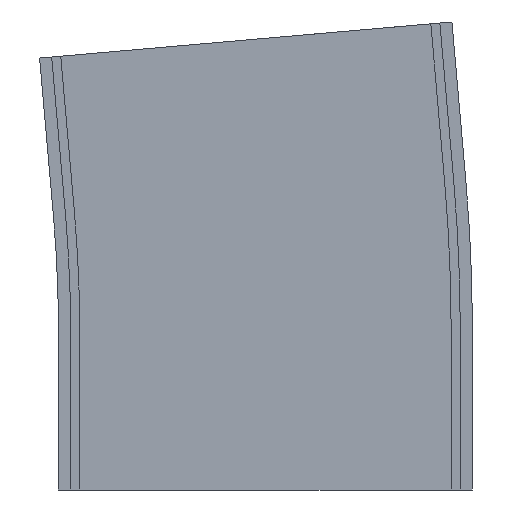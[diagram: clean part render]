
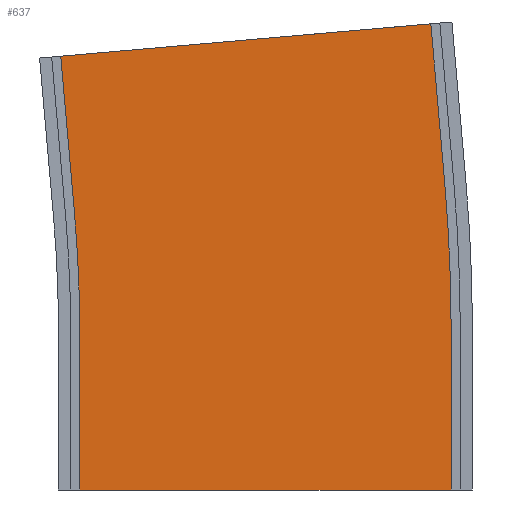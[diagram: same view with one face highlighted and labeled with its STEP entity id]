
A CAD part, left-side view. The second image highlights one B-rep face of the part: STEP entity #637.
In plain terms, the highlighted planar face has unit normal (-1, 0, 0).
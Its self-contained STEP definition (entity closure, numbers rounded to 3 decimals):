
#3 = LINE ( 'NONE', #836, #761 ) ;
#25 = DIRECTION ( 'NONE',  ( 0., 1., 0. ) ) ;
#36 = CARTESIAN_POINT ( 'NONE',  ( -249.5, 61.25, 0. ) ) ;
#38 = LINE ( 'NONE', #372, #1149 ) ;
#53 = CARTESIAN_POINT ( 'NONE',  ( -249.5, 62.92, 90.74 ) ) ;
#83 = LINE ( 'NONE', #973, #323 ) ;
#93 = EDGE_CURVE ( 'NONE', #234, #771, #1076, .T. ) ;
#102 = DIRECTION ( 'NONE',  ( 0., 0.087, 0.996 ) ) ;
#109 = DIRECTION ( 'NONE',  ( -1., 0., 0. ) ) ;
#116 = CARTESIAN_POINT ( 'NONE',  ( -249.5, 67.495, 143.04 ) ) ;
#127 = VERTEX_POINT ( 'NONE', #188 ) ;
#152 = DIRECTION ( 'NONE',  ( 1., 0., 0. ) ) ;
#163 = VERTEX_POINT ( 'NONE', #759 ) ;
#188 = CARTESIAN_POINT ( 'NONE',  ( -249.5, -61.25, 0. ) ) ;
#211 = ORIENTED_EDGE ( 'NONE', *, *, #830, .T. ) ;
#227 = DIRECTION ( 'NONE',  ( -1., 0., 0. ) ) ;
#234 = VERTEX_POINT ( 'NONE', #1409 ) ;
#254 = ORIENTED_EDGE ( 'NONE', *, *, #935, .F. ) ;
#269 = EDGE_CURVE ( 'NONE', #163, #234, #979, .T. ) ;
#288 = DIRECTION ( 'NONE',  ( 0., -1., 0. ) ) ;
#291 = DIRECTION ( 'NONE',  ( 0., 0., -1. ) ) ;
#323 = VECTOR ( 'NONE', #102, 1000. ) ;
#338 = ORIENTED_EDGE ( 'NONE', *, *, #457, .T. ) ;
#372 = CARTESIAN_POINT ( 'NONE',  ( -249.5, -54.539, 153.716 ) ) ;
#389 = CARTESIAN_POINT ( 'NONE',  ( -249.5, -54.539, 153.716 ) ) ;
#407 = VECTOR ( 'NONE', #709, 1000. ) ;
#452 = CARTESIAN_POINT ( 'NONE',  ( -249.5, 500., 52.5 ) ) ;
#457 = EDGE_CURVE ( 'NONE', #847, #702, #1333, .T. ) ;
#518 = CARTESIAN_POINT ( 'NONE',  ( -249.5, 61.25, 52.5 ) ) ;
#525 = ORIENTED_EDGE ( 'NONE', *, *, #974, .F. ) ;
#548 = DIRECTION ( 'NONE',  ( 0., 0., 1. ) ) ;
#565 = VERTEX_POINT ( 'NONE', #116 ) ;
#568 = EDGE_CURVE ( 'NONE', #847, #738, #1276, .T. ) ;
#590 = VECTOR ( 'NONE', #1055, 1000. ) ;
#637 = ADVANCED_FACE ( 'NONE', ( #843 ), #682, .F. ) ;
#658 = LINE ( 'NONE', #959, #1123 ) ;
#666 = ORIENTED_EDGE ( 'NONE', *, *, #568, .F. ) ;
#682 = PLANE ( 'NONE',  #801 ) ;
#702 = VERTEX_POINT ( 'NONE', #36 ) ;
#709 = DIRECTION ( 'NONE',  ( 0., 0., -1. ) ) ;
#738 = VERTEX_POINT ( 'NONE', #53 ) ;
#759 = CARTESIAN_POINT ( 'NONE',  ( -249.5, -61.25, 52.5 ) ) ;
#761 = VECTOR ( 'NONE', #291, 1000. ) ;
#771 = VERTEX_POINT ( 'NONE', #389 ) ;
#801 = AXIS2_PLACEMENT_3D ( 'NONE', #812, #152, #25 ) ;
#812 = CARTESIAN_POINT ( 'NONE',  ( -249.5, -61.25, 52.5 ) ) ;
#830 = EDGE_CURVE ( 'NONE', #702, #127, #658, .T. ) ;
#836 = CARTESIAN_POINT ( 'NONE',  ( -249.5, -61.25, 52.5 ) ) ;
#843 = FACE_OUTER_BOUND ( 'NONE', #856, .T. ) ;
#847 = VERTEX_POINT ( 'NONE', #518 ) ;
#856 = EDGE_LOOP ( 'NONE', ( #211, #1299, #938, #1130, #525, #254, #666, #338 ) ) ;
#904 = DIRECTION ( 'NONE',  ( 0., 0., 1. ) ) ;
#935 = EDGE_CURVE ( 'NONE', #738, #565, #83, .T. ) ;
#938 = ORIENTED_EDGE ( 'NONE', *, *, #269, .T. ) ;
#959 = CARTESIAN_POINT ( 'NONE',  ( -249.5, -61.25, 0. ) ) ;
#973 = CARTESIAN_POINT ( 'NONE',  ( -249.5, 62.92, 90.74 ) ) ;
#974 = EDGE_CURVE ( 'NONE', #565, #771, #38, .T. ) ;
#979 = CIRCLE ( 'NONE', #1369, 561.25 ) ;
#995 = EDGE_CURVE ( 'NONE', #163, #127, #3, .T. ) ;
#1017 = CARTESIAN_POINT ( 'NONE',  ( -249.5, 61.25, 52.5 ) ) ;
#1055 = DIRECTION ( 'NONE',  ( 0., 0.087, 0.996 ) ) ;
#1076 = LINE ( 'NONE', #1264, #590 ) ;
#1123 = VECTOR ( 'NONE', #288, 1000. ) ;
#1125 = AXIS2_PLACEMENT_3D ( 'NONE', #452, #109, #548 ) ;
#1130 = ORIENTED_EDGE ( 'NONE', *, *, #93, .T. ) ;
#1149 = VECTOR ( 'NONE', #1250, 1000. ) ;
#1218 = CARTESIAN_POINT ( 'NONE',  ( -249.5, 500., 52.5 ) ) ;
#1250 = DIRECTION ( 'NONE',  ( 0., -0.996, 0.087 ) ) ;
#1264 = CARTESIAN_POINT ( 'NONE',  ( -249.5, -59.114, 101.416 ) ) ;
#1276 = CIRCLE ( 'NONE', #1125, 438.75 ) ;
#1299 = ORIENTED_EDGE ( 'NONE', *, *, #995, .F. ) ;
#1333 = LINE ( 'NONE', #1017, #407 ) ;
#1369 = AXIS2_PLACEMENT_3D ( 'NONE', #1218, #227, #904 ) ;
#1409 = CARTESIAN_POINT ( 'NONE',  ( -249.5, -59.114, 101.416 ) ) ;
